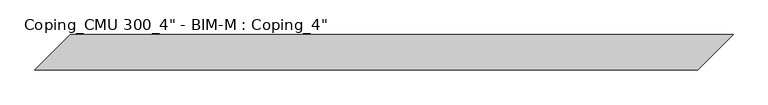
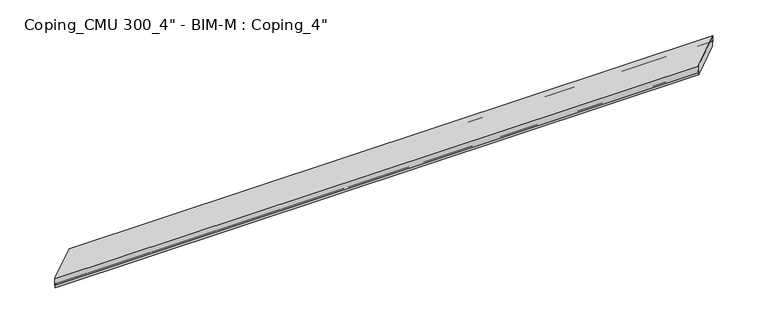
"""IFC4 building model written with IfcOpenShell, lengths in millimetres: proxy geometry."""

from ifc_helpers import new_model, si_unit, frame, origin, place, context, project, spatial, polyline, ellipse_curve, source, transform, mapped, element, save
from ifc_brep_helpers import plane_surface, revolved_surface, advanced_brep


def proxy_01ec6448(model_context):
    return source(origin(), model_context, "Body", "AdvancedBrep", [
        advanced_brep(
        [(8315.1213652, 0.0, 88.1977357), (8315.1213652, 0.0, 0.0), (8315.1213652, 0.0, -50.8), (8721.5213652, 406.4, -50.8), (8721.5213652, 406.4, 0.0), (8724.6963652, 409.575, 0.0), (8737.3963652, 422.275, 0.0), (8740.5713652, 425.45, 0.0), (8740.5713652, 425.45, 76.3727891), (8296.0713652, -19.05, 88.7272109), (8296.0713652, -19.05, 0.0), (8299.2463652, -15.875, 0.0), (8311.9463652, -3.175, 0.0), (0.0, 0.0, 88.1977357), (0.0, 0.0, 0.0), (-3.175, -3.175, 0.0), (-15.875, -15.875, 0.0), (-19.05, -19.05, 0.0), (-19.05, -19.05, 88.7272109), (425.45, 425.45, 76.3727891), (425.45, 425.45, 0.0), (422.275, 422.275, 0.0), (409.575, 409.575, 0.0), (406.4, 406.4, 0.0), (406.4, 406.4, -50.8), (0.0, 0.0, -50.8)],
        [
            (0, 1),
            (1, 2),
            (2, 3),
            (3, 4),
            (4, 5),
            (5, 6, ellipse_curve(frame((8731.0463652, 415.925, 0.0), z_axis=(-0.7071067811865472, 0.7071067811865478, 0.0), x_axis=(-0.7071067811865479, -0.7071067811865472, 0.0)), 8.9802561, 6.35)),
            (6, 7),
            (7, 8),
            (8, 0),
            (0, 9),
            (9, 10),
            (10, 11),
            (11, 12, ellipse_curve(frame((8305.5963652, -9.525, 0.0), z_axis=(-0.7071067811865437, 0.7071067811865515, 0.0), x_axis=(-0.7071067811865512, -0.7071067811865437, 0.0)), 8.9802561, 6.35)),
            (12, 1),
            (13, 14),
            (14, 15),
            (15, 16, ellipse_curve(frame((-9.525, -9.525, 0.0), z_axis=(0.707106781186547, -0.707106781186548, 0.0), x_axis=(-0.7071067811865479, -0.707106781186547, 0.0)), 8.9802561, 6.35)),
            (16, 17),
            (17, 18),
            (18, 13),
            (13, 19),
            (19, 20),
            (20, 21),
            (21, 22, ellipse_curve(frame((415.925, 415.925, 0.0), z_axis=(0.7071067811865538, -0.7071067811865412, 0.0), x_axis=(-0.7071067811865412, -0.7071067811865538, 0.0)), 8.9802561, 6.35)),
            (22, 23),
            (23, 24),
            (24, 25),
            (25, 14),
            (8, 19),
            (18, 9),
            (17, 10),
            (16, 11),
            (15, 12),
            (14, 1),
            (5, 22),
            (21, 6),
            (4, 23),
            (7, 20),
            (25, 2),
            (24, 3),
        ],
        [
            plane_surface(frame((8943.7392937, 628.6179285, 304.8), z_axis=(0.7071067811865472, -0.7071067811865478, 0.0), x_axis=(0.0, 0.0, -1.0))),
            plane_surface(frame((8315.1213652, 0.0, 304.8), z_axis=(0.7071067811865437, -0.7071067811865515, 0.0), x_axis=(0.0, 0.0, -1.0))),
            plane_surface(frame((-628.6179285, -628.6179285, 304.8), z_axis=(-0.707106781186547, 0.707106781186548, 0.0), x_axis=(0.0, 0.0, -1.0))),
            plane_surface(frame((0.0, 0.0, 304.8), z_axis=(-0.7071067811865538, 0.7071067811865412, 0.0), x_axis=(0.0, 0.0, -1.0))),
            plane_surface(frame((8772.3213652, 425.45, 76.3727891), z_axis=(0.0, 0.027783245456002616, 0.9996139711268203), x_axis=(-1.0, 0.0, 0.0))),
            plane_surface(frame((8772.3213652, -19.05, 88.7272109), z_axis=(0.0, -1.0, 0.0), x_axis=(-1.0, 0.0, 0.0))),
            plane_surface(frame((8772.3213652, -19.05, 0.0), z_axis=(0.0, 0.0, -1.0), x_axis=(-1.0, 0.0, 0.0))),
            revolved_surface(polyline([(-15.875, -15.875, 0.0), (8311.9463652, -15.875, 0.0)]), (8772.3213652, -9.525, 0.0), (-1.0, 0.0, 0.0)),
            plane_surface(frame((8772.3213652, -3.175, 0.0), z_axis=(0.0, 0.0, -1.0), x_axis=(-1.0, 0.0, 0.0))),
            revolved_surface(polyline([(409.5750000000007, 409.575, 0.0), (8737.3963652, 409.575, 0.0)]), (8772.3213652, 415.925, 0.0), (-1.0, 0.0, 0.0)),
            plane_surface(frame((8772.3213652, 406.4, 0.0), z_axis=(0.0, 0.0, -1.0), x_axis=(-1.0, 0.0, 0.0))),
            plane_surface(frame((8772.3213652, 425.45, 0.0), z_axis=(0.0, 1.0, 0.0), x_axis=(-1.0, 0.0, 0.0))),
            plane_surface(frame((8772.3213652, 0.0, 0.0), z_axis=(0.0, -1.0, 0.0), x_axis=(-1.0, 0.0, 0.0))),
            plane_surface(frame((8772.3213652, 0.0, -50.8), z_axis=(0.0, 0.0, -1.0), x_axis=(-1.0, 0.0, 0.0))),
            plane_surface(frame((8772.3213652, 406.4, -50.8), z_axis=(0.0, 1.0, 0.0), x_axis=(-1.0, 0.0, 0.0))),
            plane_surface(frame((8772.3213652, 422.275, 0.0), z_axis=(0.0, 0.0, -1.0), x_axis=(-1.0, 0.0, 0.0))),
        ],
        [
            (0, [[1, 2, 3, 4, 5, 6, 7, 8, 9]]),
            (1, [[-1, 10, 11, 12, 13, 14]]),
            (2, [[15, 16, 17, 18, 19, 20]]),
            (3, [[-15, 21, 22, 23, 24, 25, 26, 27, 28]]),
            (4, [[-9, 29, -21, -20, 30, -10]]),
            (5, [[-11, -30, -19, 31]]),
            (6, [[-12, -31, -18, 32]]),
            (7, [[-13, -32, -17, 33]]),
            (8, [[-14, -33, -16, 34]]),
            (9, [[-6, 35, -24, 36]]),
            (10, [[-5, 37, -25, -35]]),
            (11, [[-8, 38, -22, -29]]),
            (12, [[-2, -34, -28, 39]]),
            (13, [[-3, -39, -27, 40]]),
            (14, [[-4, -40, -26, -37]]),
            (15, [[-7, -36, -23, -38]]),
        ],
    ),
    ])


if __name__ == "__main__":
    model = new_model("IFC4")
    model_context = context("Model", 3, world=origin())
    ifc_project = project(units=[si_unit("LENGTHUNIT", "METRE", prefix="MILLI")], contexts=[model_context])
    site = spatial("IfcSite", under=ifc_project)
    building = spatial("IfcBuilding", under=site)
    placement = place(None, origin())
    proxy_shape = proxy_01ec6448(model_context)
    element("IfcBuildingElementProxy", 1, Name="Coping_CMU 300_4\" - BIM-M : Coping_4\"", ObjectType="Coping_CMU 300_4\" - BIM-M : Coping_4\"", at=placement, inside=building, context=model_context, shape_type="MappedRepresentation", body=[
        mapped(proxy_shape, transform((0.0, 0.0, 0.0), x_axis=(1.0, 0.0, 0.0), y_axis=(0.0, 1.0, 0.0), z_axis=(0.0, 0.0, 1.0))),
    ])
    save(model, "model.ifc")
